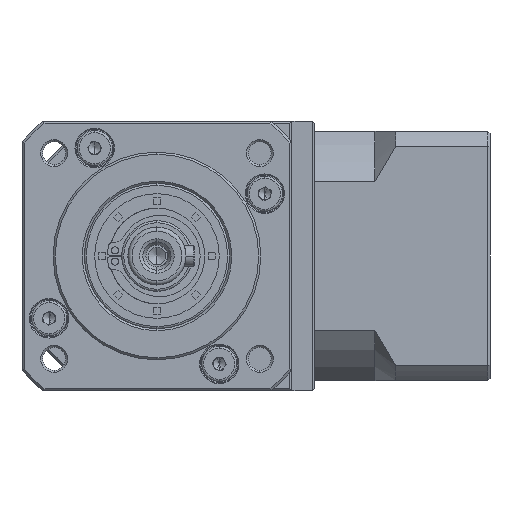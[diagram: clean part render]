
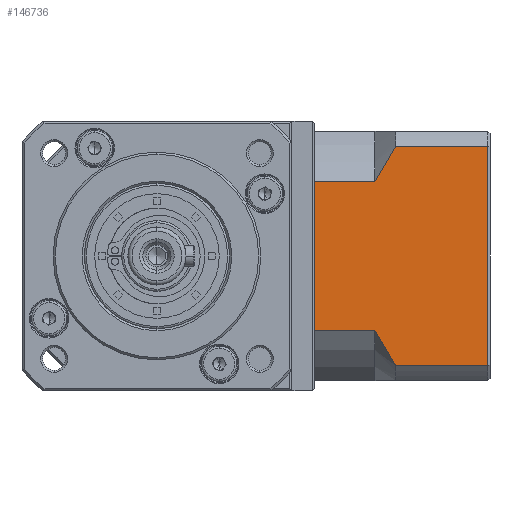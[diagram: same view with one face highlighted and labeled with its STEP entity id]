
A CAD part, left-side view. The second image highlights one B-rep face of the part: STEP entity #146736.
In plain terms, the highlighted planar face has unit normal (-1, 0, 0).
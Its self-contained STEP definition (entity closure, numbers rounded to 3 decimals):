
#2395 = EDGE_CURVE ( 'NONE', #91637, #78325, #16498, .T. ) ;
#2956 = LINE ( 'NONE', #13588, #114415 ) ;
#3700 = CARTESIAN_POINT ( 'NONE',  ( -32.751, -64.701, -138.741 ) ) ;
#10072 = CARTESIAN_POINT ( 'NONE',  ( -32.751, -64.701, -90.714 ) ) ;
#13286 = CARTESIAN_POINT ( 'NONE',  ( -32.751, -84.201, -82.284 ) ) ;
#13588 = CARTESIAN_POINT ( 'NONE',  ( -32.751, -79.201, -90.714 ) ) ;
#14801 = AXIS2_PLACEMENT_3D ( 'NONE', #110870, #23792, #125344 ) ;
#16498 = LINE ( 'NONE', #132730, #55288 ) ;
#23792 = DIRECTION ( 'NONE',  ( 1., 0., 0. ) ) ;
#25611 = EDGE_CURVE ( 'NONE', #94166, #166736, #142684, .T. ) ;
#27931 = CARTESIAN_POINT ( 'NONE',  ( -32.751, -80.753, -87.83 ) ) ;
#28162 = CARTESIAN_POINT ( 'NONE',  ( -32.751, -82.426, -132.456 ) ) ;
#28865 = DIRECTION ( 'NONE',  ( 0., -1., 0. ) ) ;
#31221 = DIRECTION ( 'NONE',  ( 0., 0., 1. ) ) ;
#32380 = CARTESIAN_POINT ( 'NONE',  ( -32.751, -64.701, -126.769 ) ) ;
#33524 = DIRECTION ( 'NONE',  ( 0., -1., 0. ) ) ;
#37796 = PLANE ( 'NONE',  #14801 ) ;
#41920 = CARTESIAN_POINT ( 'NONE',  ( -32.751, -79.201, -90.714 ) ) ;
#42175 = CARTESIAN_POINT ( 'NONE',  ( -32.751, -79.951, -128.226 ) ) ;
#42589 = CARTESIAN_POINT ( 'NONE',  ( -32.751, -79.201, -90.714 ) ) ;
#42819 = CARTESIAN_POINT ( 'NONE',  ( -32.751, -84.201, -135.199 ) ) ;
#46260 = ORIENTED_EDGE ( 'NONE', *, *, #119316, .F. ) ;
#54934 = EDGE_CURVE ( 'NONE', #94166, #105569, #2956, .T. ) ;
#55214 = B_SPLINE_CURVE_WITH_KNOTS ( 'NONE', 3,
 ( #143583, #42175, #115163, #28162, #129699, #42819 ),
 .UNSPECIFIED., .F., .F.,
 ( 4, 2, 4 ),
 ( 0.1, 0.104, 0.109 ),
 .UNSPECIFIED. ) ;
#55288 = VECTOR ( 'NONE', #31221, 1000. ) ;
#58596 = VECTOR ( 'NONE', #135805, 1000. ) ;
#70262 = VECTOR ( 'NONE', #177526, 1000. ) ;
#72046 = VECTOR ( 'NONE', #33524, 1000. ) ;
#73568 = FACE_OUTER_BOUND ( 'NONE', #86351, .T. ) ;
#75593 = CARTESIAN_POINT ( 'NONE',  ( -32.751, -79.201, -82.284 ) ) ;
#78325 = VERTEX_POINT ( 'NONE', #149424 ) ;
#85062 = VERTEX_POINT ( 'NONE', #137688 ) ;
#85829 = CARTESIAN_POINT ( 'NONE',  ( -32.751, -83.302, -83.644 ) ) ;
#86351 = EDGE_LOOP ( 'NONE', ( #46260, #184584, #105461, #166611, #155402, #144113, #137358, #135198 ) ) ;
#91637 = VERTEX_POINT ( 'NONE', #134608 ) ;
#92926 = CARTESIAN_POINT ( 'NONE',  ( -32.751, -84.201, -82.284 ) ) ;
#94166 = VERTEX_POINT ( 'NONE', #10072 ) ;
#97544 = EDGE_CURVE ( 'NONE', #130444, #85062, #55214, .T. ) ;
#103557 = EDGE_CURVE ( 'NONE', #141676, #105569, #173409, .T. ) ;
#105461 = ORIENTED_EDGE ( 'NONE', *, *, #122860, .F. ) ;
#105569 = VERTEX_POINT ( 'NONE', #41920 ) ;
#106016 = LINE ( 'NONE', #75593, #72046 ) ;
#106719 = CARTESIAN_POINT ( 'NONE',  ( -32.751, -79.201, -135.199 ) ) ;
#110000 = CARTESIAN_POINT ( 'NONE',  ( -32.751, -79.201, -126.769 ) ) ;
#110870 = CARTESIAN_POINT ( 'NONE',  ( -32.751, -106.901, -138.741 ) ) ;
#114415 = VECTOR ( 'NONE', #28865, 1000. ) ;
#114942 = CARTESIAN_POINT ( 'NONE',  ( -32.751, -82.428, -85.023 ) ) ;
#115163 = CARTESIAN_POINT ( 'NONE',  ( -32.751, -80.752, -129.651 ) ) ;
#119316 = EDGE_CURVE ( 'NONE', #91637, #85062, #169654, .T. ) ;
#122860 = EDGE_CURVE ( 'NONE', #141676, #78325, #106016, .T. ) ;
#124518 = DIRECTION ( 'NONE',  ( 0., 1., 0. ) ) ;
#125344 = DIRECTION ( 'NONE',  ( 0., 1., 0. ) ) ;
#126554 = EDGE_CURVE ( 'NONE', #130444, #166736, #164274, .T. ) ;
#129470 = CARTESIAN_POINT ( 'NONE',  ( -32.751, -79.949, -89.262 ) ) ;
#129699 = CARTESIAN_POINT ( 'NONE',  ( -32.751, -83.3, -133.836 ) ) ;
#130329 = VECTOR ( 'NONE', #124518, 1000. ) ;
#130444 = VERTEX_POINT ( 'NONE', #155566 ) ;
#132730 = CARTESIAN_POINT ( 'NONE',  ( -32.751, -106.401, -138.741 ) ) ;
#134608 = CARTESIAN_POINT ( 'NONE',  ( -32.751, -106.401, -135.199 ) ) ;
#135198 = ORIENTED_EDGE ( 'NONE', *, *, #97544, .T. ) ;
#135805 = DIRECTION ( 'NONE',  ( 0., 1., 0. ) ) ;
#137358 = ORIENTED_EDGE ( 'NONE', *, *, #126554, .F. ) ;
#137688 = CARTESIAN_POINT ( 'NONE',  ( -32.751, -84.201, -135.199 ) ) ;
#141676 = VERTEX_POINT ( 'NONE', #92926 ) ;
#142684 = LINE ( 'NONE', #3700, #70262 ) ;
#143583 = CARTESIAN_POINT ( 'NONE',  ( -32.751, -79.201, -126.769 ) ) ;
#144113 = ORIENTED_EDGE ( 'NONE', *, *, #25611, .T. ) ;
#146736 = ADVANCED_FACE ( 'NONE', ( #73568 ), #37796, .F. ) ;
#149424 = CARTESIAN_POINT ( 'NONE',  ( -32.751, -106.401, -82.284 ) ) ;
#155402 = ORIENTED_EDGE ( 'NONE', *, *, #54934, .F. ) ;
#155566 = CARTESIAN_POINT ( 'NONE',  ( -32.751, -79.201, -126.769 ) ) ;
#164274 = LINE ( 'NONE', #110000, #130329 ) ;
#166611 = ORIENTED_EDGE ( 'NONE', *, *, #103557, .T. ) ;
#166736 = VERTEX_POINT ( 'NONE', #32380 ) ;
#169654 = LINE ( 'NONE', #106719, #58596 ) ;
#173409 = B_SPLINE_CURVE_WITH_KNOTS ( 'NONE', 3,
 ( #13286, #85829, #114942, #27931, #129470, #42589 ),
 .UNSPECIFIED., .F., .F.,
 ( 4, 2, 4 ),
 ( 0.052, 0.057, 0.062 ),
 .UNSPECIFIED. ) ;
#177526 = DIRECTION ( 'NONE',  ( 0., 0., -1. ) ) ;
#184584 = ORIENTED_EDGE ( 'NONE', *, *, #2395, .T. ) ;
